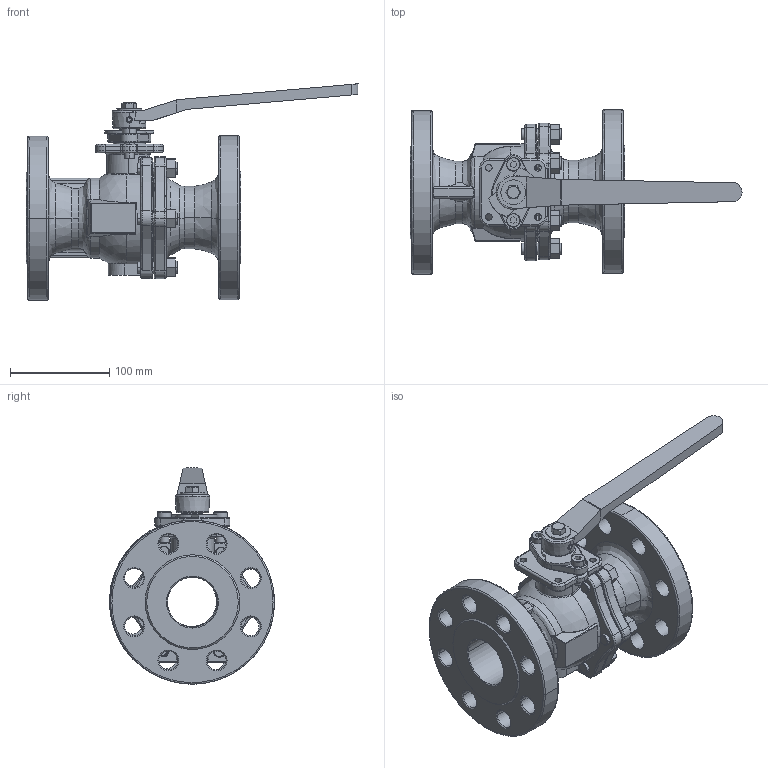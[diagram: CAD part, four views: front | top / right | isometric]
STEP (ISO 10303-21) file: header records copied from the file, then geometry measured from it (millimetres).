
FILE_DESCRIPTION(('Open CASCADE Model'),'2;1');
FILE_NAME('Open CASCADE Shape Model','2021-11-19T08:19:05',('Author'),( 'Open CASCADE'),'Open CASCADE STEP processor 7.3','Open CASCADE 7.3' ,'Unknown');
FILE_SCHEMA(('AUTOMOTIVE_DESIGN { 1 0 10303 214 1 1 1 1 }'));
Products named in the file (1): Open CASCADE STEP translator 7.3 1
Bounding box: 333.88 x 165.93 x 217.59 mm (x, y, z)
Volume: 1381854.1 mm3; surface area: 275536.3 mm2
Topology: 1 solids, 1 shells, 768 faces, 1939 edges, 1198 vertices
Faces by surface type: cylinder 279, plane 235, bspline 126, cone 122, sphere 6
Entity records: 85527 total; most frequent: CARTESIAN_POINT 49354, DIRECTION 6248, ORIENTED_EDGE 3868, PCURVE 3868, DEFINITIONAL_REPRESENTATION 3868, LINE 3352, VECTOR 3352, EDGE_CURVE 1934
